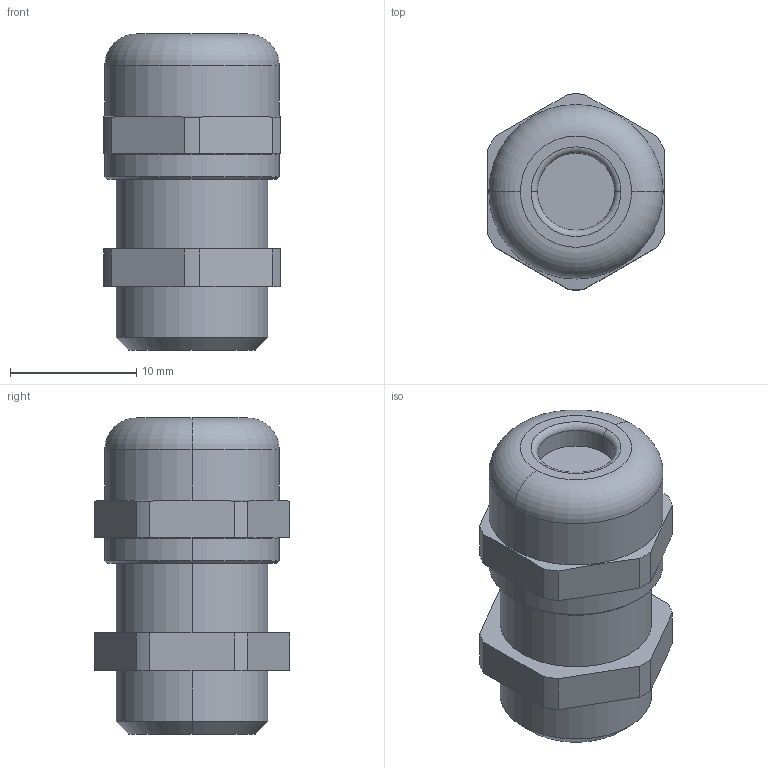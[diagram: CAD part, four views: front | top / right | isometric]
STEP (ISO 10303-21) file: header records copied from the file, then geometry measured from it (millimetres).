
FILE_DESCRIPTION (( 'STEP AP203' ), '1' );
FILE_NAME ('50.612 M-STO.STEP', '2005-11-02T09:50:55', ( ' ' ), ( '' ), 'SwSTEP 2.0', 'SolidWorks 2005278', '' );
FILE_SCHEMA (( 'CONFIG_CONTROL_DESIGN' ));
Length unit declared in the file: millimetre
Products named in the file (1): 50.612 M-STO
Bounding box: 14 x 15.49 x 25 mm (x, y, z)
Volume: 2857.7 mm3; surface area: 1766.9 mm2
Topology: 1 solids, 1 shells, 92 faces, 234 edges, 152 vertices
Faces by surface type: plane 56, cylinder 24, cone 8, torus 4
Entity records: 2863 total; most frequent: CARTESIAN_POINT 535, ORIENTED_EDGE 468, DIRECTION 464, EDGE_CURVE 234, VECTOR 158, LINE 158, AXIS2_PLACEMENT_3D 153, VERTEX_POINT 152
